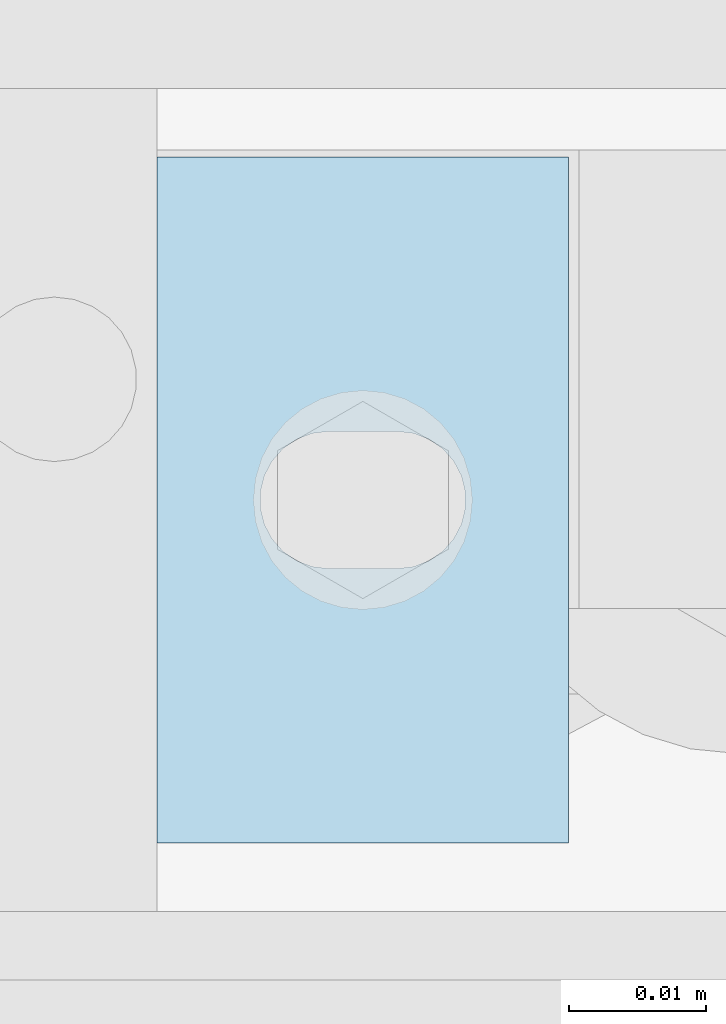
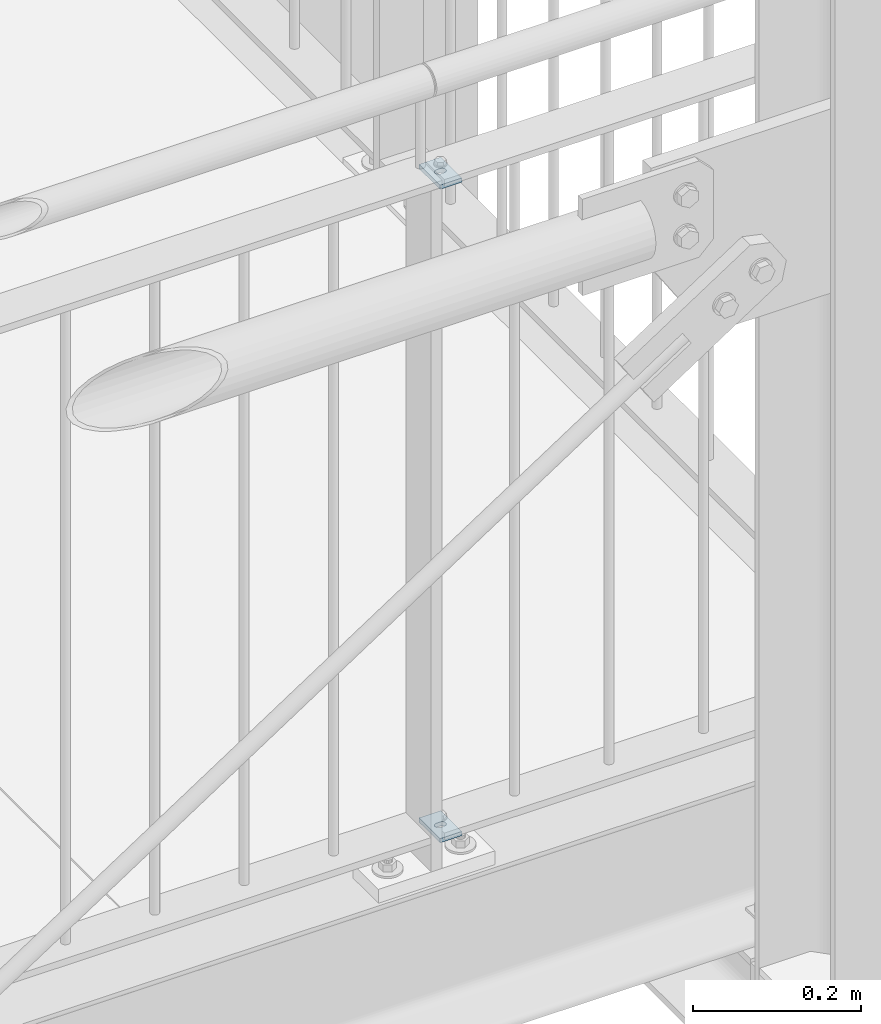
# One storey, part 233 of 831: 2 plates, 2 openings.
"""IFC2X3 building model written with IfcOpenShell, lengths in millimetres."""

from ifc_helpers import new_model, entity, si_unit, converted_unit, point, frame, frame_2d, origin, origin_with_axes, place, context, project, spatial, polyline, circle_curve, line_curve, trimmed, segment, composite_curve, outline, extrude, material, layer, layer_set, element, save


model = new_model("IFC2X3")

# Units and contexts
model_context = context("Model", 3, precision=1e-09, world=origin_with_axes())
ifc_project = project(units=[si_unit("LENGTHUNIT", "METRE", prefix="MILLI"), si_unit("AREAUNIT", "SQUARE_METRE"), si_unit("VOLUMEUNIT", "CUBIC_METRE"), converted_unit("PLANEANGLEUNIT", "DEGREE", entity("IfcPlaneAngleMeasure", 0.01745329), si_unit("PLANEANGLEUNIT", "RADIAN"), dimensions=[0, 0, 0, 0, 0, 0, 0])], contexts=[model_context])

# Site, building, storey
site_placement = place(None, origin_with_axes())
site = spatial("IfcSite", under=ifc_project, at=site_placement, Name="Site", CompositionType="ELEMENT")
building_placement = place(site_placement, origin_with_axes())
building = spatial("IfcBuilding", under=site, at=building_placement, Name="Struktur 1", CompositionType="ELEMENT")
storey_placement = place(building_placement, origin_with_axes())
storey = spatial("IfcBuildingStorey", under=building, at=storey_placement, Name="Default Storey", CompositionType="ELEMENT", Elevation=0.0)

# Plate, opening
ifc_material = material(Name="S235JR")
ifc_layer = layer(ifc_material, 6.0)
ifc_layer_set = layer_set([ifc_layer], Name="S235JR")
plate_1_placement = place(None, frame((8372.292260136, 4526.736971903, 16578.0000003), z_axis=(0.0, 0.0, 1.0), x_axis=(1.0, 0.0, 0.0)))
plate_1 = element("IfcPlate", 1, at=plate_1_placement, inside=storey, material=ifc_layer_set, Name="-", ObjectType="-", context=model_context, shape_type="SweptSolid", body=[
    extrude(outline(polyline([(-15.0, -25.0), (15.0, -25.0), (15.0, 25.0), (-15.0, 25.0), (-15.0, -25.0)])), origin_with_axes(), (0.0, 0.0, 1.0), 6.0),
])
opening_1_placement = place(plate_1_placement, frame((-1e-09, 0.0, -0.5), z_axis=(0.0, 0.0, 1.0), x_axis=(1.0, 0.0, 0.0)))
element("IfcOpeningElement", 2, at=opening_1_placement, cuts=plate_1, ObjectType="Opening", context=model_context, shape_type="SweptSolid", body=[
    extrude(outline(composite_curve([segment(trimmed(line_curve((-2.5, -5.001), (1.0, 0.0), 5.0), [point((-2.5, -5.001))], [point((2.5, -5.001))], True, "CARTESIAN"), True, "CONTINUOUS"), segment(trimmed(circle_curve(frame_2d((2.5, 0.0), x_axis=(1.0, 0.0)), 5.001), [point((2.5, -5.001))], [point((2.5, 5.001))], True, "CARTESIAN"), True, "CONTINUOUS"), segment(trimmed(line_curve((2.5, 5.001), (-1.0, 0.0), 5.0), [point((2.5, 5.001))], [point((-2.5, 5.001))], True, "CARTESIAN"), True, "CONTINUOUS"), segment(trimmed(circle_curve(frame_2d((-2.5, 0.0), x_axis=(1.0, 0.0)), 5.001), [point((-2.5, 5.001))], [point((-2.5, -5.001))], True, "CARTESIAN"), True, "CONTINUOUS")], self_intersect=False)), origin(), (0.0, 0.0, 1.0), 7.0),
])

plate_2_placement = place(None, frame((8372.292260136, 4526.736971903, 17526.8000003), z_axis=(0.0, 0.0, 1.0), x_axis=(1.0, 0.0, 0.0)))
plate_2 = element("IfcPlate", 3, at=plate_2_placement, inside=storey, material=ifc_layer_set, Name="-", ObjectType="-", context=model_context, shape_type="SweptSolid", body=[
    extrude(outline(polyline([(-15.0, -25.0), (15.0, -25.0), (15.0, 25.0), (-15.0, 25.0), (-15.0, -25.0)])), origin_with_axes(), (0.0, 0.0, 1.0), 6.0),
])
opening_2_placement = place(plate_2_placement, frame((-1e-09, 0.0, -0.5), z_axis=(0.0, 0.0, 1.0), x_axis=(1.0, 0.0, 0.0)))
element("IfcOpeningElement", 4, at=opening_2_placement, cuts=plate_2, ObjectType="Opening", context=model_context, shape_type="SweptSolid", body=[
    extrude(outline(composite_curve([segment(trimmed(line_curve((-2.5, -5.001), (1.0, 0.0), 5.0), [point((-2.5, -5.001))], [point((2.5, -5.001))], True, "CARTESIAN"), True, "CONTINUOUS"), segment(trimmed(circle_curve(frame_2d((2.5, 0.0), x_axis=(1.0, 0.0)), 5.001), [point((2.5, -5.001))], [point((2.5, 5.001))], True, "CARTESIAN"), True, "CONTINUOUS"), segment(trimmed(line_curve((2.5, 5.001), (-1.0, 0.0), 5.0), [point((2.5, 5.001))], [point((-2.5, 5.001))], True, "CARTESIAN"), True, "CONTINUOUS"), segment(trimmed(circle_curve(frame_2d((-2.5, 0.0), x_axis=(1.0, 0.0)), 5.001), [point((-2.5, 5.001))], [point((-2.5, -5.001))], True, "CARTESIAN"), True, "CONTINUOUS")], self_intersect=False)), origin(), (0.0, 0.0, 1.0), 7.0),
])

save(model, "model.ifc")
